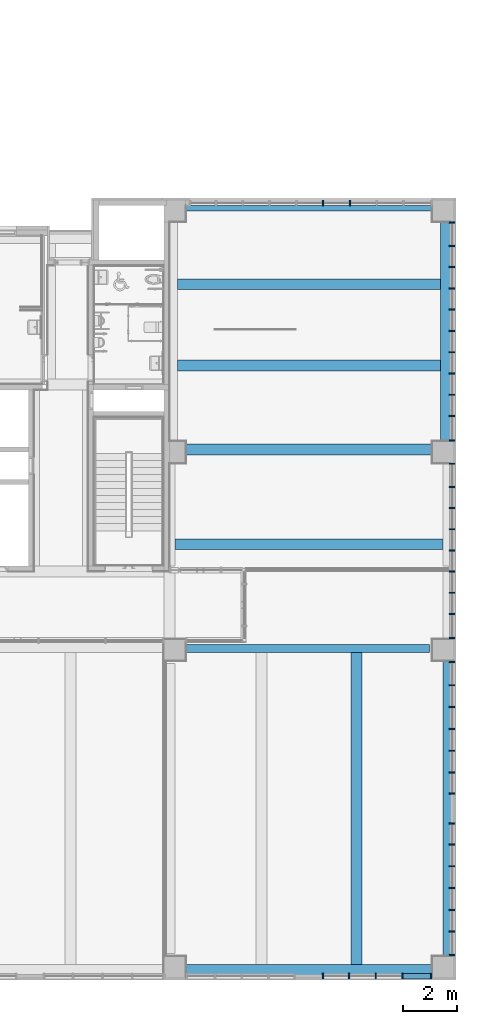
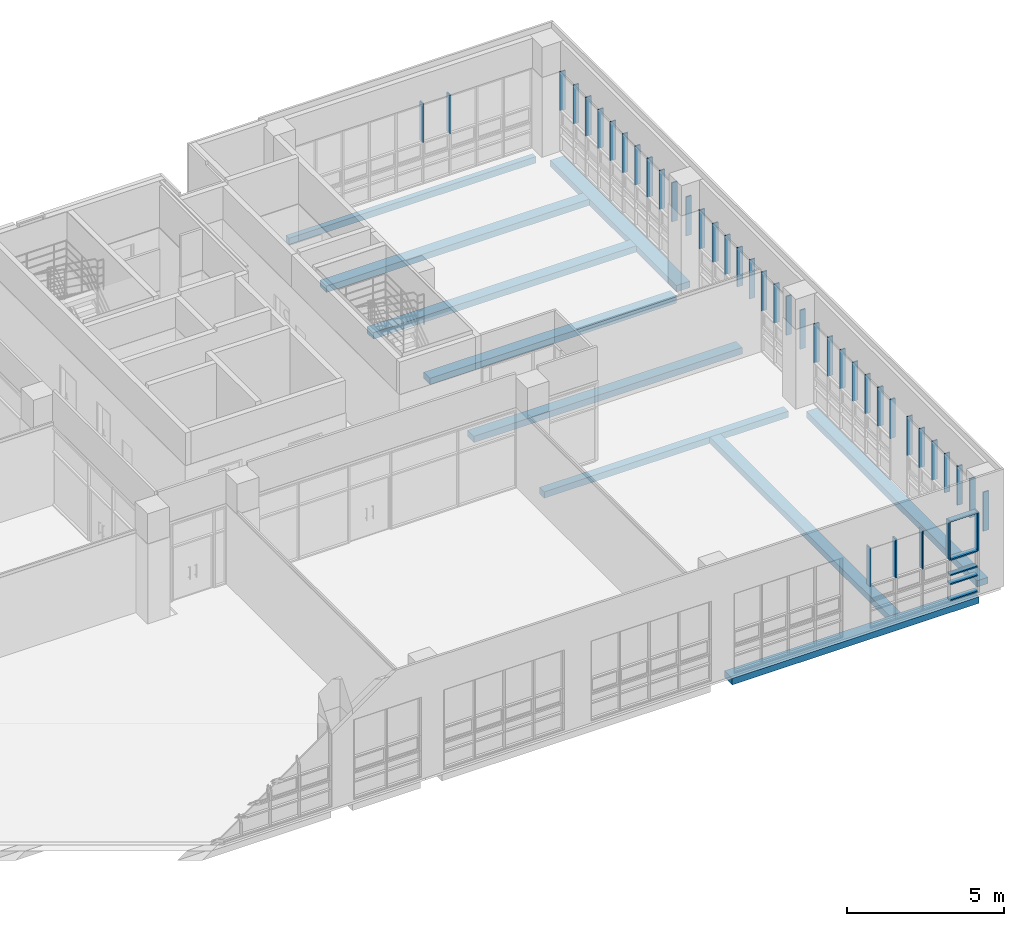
# One storey, part 9 of 74: 46 members, 10 beams, 6 elements without a shape of their own.
"""IFC2X3 building model written with IfcOpenShell, lengths in millimetres."""

import ifcopenshell
import ifcopenshell.guid

model = None  # the IFC model being written
_history = None  # IfcOwnerHistory: only IFC2X3 demands one
_inside = {}  # id of a spatial element -> (the spatial element, [elements in it])
_under = {}  # id of a project, library or spatial element -> (it, [spatial elements below it])
_declared = {}  # id of a project -> (the project, [libraries it declares])
_typed = {}  # id of a type object -> (the type object, [elements of that type])
_made_of = {}  # id of a material, layer set ... -> (it, [elements and type objects made of it])


def new_model(schema):
    """Start an empty IFC model of exactly this schema.

    Asked for "IFC4X3", IfcOpenShell would pick the latest addendum, in which some entities
    have other attributes; the version numbers below select the first issue.
    IFC2X3 requires an IfcOwnerHistory on every rooted entity: one is made here for all.
    """
    global model, _history
    if schema == "IFC4X3":
        model = ifcopenshell.file(schema_version=(4, 3, 0, 0))
    else:
        model = ifcopenshell.file(schema=schema)
    _inside.clear()
    _under.clear()
    _declared.clear()
    _typed.clear()
    _made_of.clear()
    _history = None
    if model.schema == "IFC2X3":
        org = make("IfcOrganization", Name="unknown")
        user = make(
            "IfcPersonAndOrganization",
            ThePerson=make("IfcPerson", FamilyName="unknown"),
            TheOrganization=org,
        )
        app = make(
            "IfcApplication",
            ApplicationDeveloper=org,
            Version="unknown",
            ApplicationFullName="unknown",
            ApplicationIdentifier="unknown",
        )
        _history = make(
            "IfcOwnerHistory",
            OwningUser=user,
            OwningApplication=app,
            ChangeAction="ADDED",
            CreationDate=0,
        )
    return model


def make(cls, **values):
    """One entity of the class cls with the attributes given. An attribute that is None is left unset."""
    return model.create_entity(
        cls, **{name: value for name, value in values.items() if value is not None}
    )


def entity(cls, *values):
    """Any entity or typed value of the class cls, its attributes in the order of the schema. None: left unset."""
    e = model.create_entity(cls)
    for i, value in enumerate(values):
        if value is not None:
            e[i] = value
    return e


def rooted(cls, **values):
    """An entity with a GlobalId (a new one), such as an element, a storey or a relation."""
    return make(cls, GlobalId=ifcopenshell.guid.new(), OwnerHistory=_history, **values)


def si_unit(unit_type, name, prefix=None):
    """IfcSIUnit, for example si_unit("LENGTHUNIT", "METRE", prefix="MILLI")."""
    return make("IfcSIUnit", UnitType=unit_type, Prefix=prefix, Name=name)


def converted_unit(unit_type, name, factor, base, dimensions=None, offset=None):
    """IfcConversionBasedUnit, such as the inch: factor (a typed value) times the base unit."""
    return make(
        "IfcConversionBasedUnit"
        if offset is None
        else "IfcConversionBasedUnitWithOffset",
        ConversionOffset=offset,
        Dimensions=None
        if dimensions is None
        else entity("IfcDimensionalExponents", *dimensions),
        UnitType=unit_type,
        Name=name,
        ConversionFactor=make(
            "IfcMeasureWithUnit", ValueComponent=factor, UnitComponent=base
        ),
    )


def derived_unit(unit_type, elements):
    """IfcDerivedUnit: a product of units, each with its exponent."""
    return make(
        "IfcDerivedUnit",
        Elements=[
            make("IfcDerivedUnitElement", Unit=unit, Exponent=power)
            for unit, power in elements
        ],
        UnitType=unit_type,
    )


def assignment(units):
    """IfcUnitAssignment: the units of a project."""
    return None if units is None else make("IfcUnitAssignment", Units=units)


def point(xyz):
    """IfcCartesianPoint."""
    return None if xyz is None else make("IfcCartesianPoint", Coordinates=xyz)


def direction(xyz):
    """IfcDirection."""
    return None if xyz is None else make("IfcDirection", DirectionRatios=xyz)


def frame(location, z_axis=None, x_axis=None):
    """IfcAxis2Placement3D, a coordinate frame: its origin and axes. An axis left out is left unset."""
    return make(
        "IfcAxis2Placement3D",
        Location=point(location),
        Axis=direction(z_axis),
        RefDirection=direction(x_axis),
    )


def frame_2d(location, x_axis=None):
    """IfcAxis2Placement2D, a coordinate frame in the plane: its origin and x axis."""
    return make(
        "IfcAxis2Placement2D", Location=point(location), RefDirection=direction(x_axis)
    )


def origin():
    """The frame at (0, 0, 0) with its axes left unset."""
    return frame((0.0, 0.0, 0.0))


def origin_2d_with_axis():
    """The frame at (0, 0) in the plane with the x axis (1, 0) written out."""
    return frame_2d((0.0, 0.0), x_axis=(1.0, 0.0))


def place(relative_to, where):
    """IfcLocalPlacement: puts the frame where relative to a parent placement (None: the world)."""
    return make(
        "IfcLocalPlacement", PlacementRelTo=relative_to, RelativePlacement=where
    )


def context(
    kind, dimensions, precision=None, world=None, true_north=None, identifier=None
):
    """IfcGeometricRepresentationContext, for example the 3D "Model" context."""
    return make(
        "IfcGeometricRepresentationContext",
        ContextIdentifier=identifier,
        ContextType=kind,
        CoordinateSpaceDimension=dimensions,
        Precision=precision,
        WorldCoordinateSystem=world,
        TrueNorth=true_north,
    )


def subcontext(parent, identifier, kind, view, scale=None):
    """IfcGeometricRepresentationSubContext, for example "Body" below "Model"."""
    return make(
        "IfcGeometricRepresentationSubContext",
        ContextIdentifier=identifier,
        ContextType=kind,
        ParentContext=parent,
        TargetScale=scale,
        TargetView=view,
    )


def project(units=None, contexts=None):
    """IfcProject with its units and contexts."""
    return rooted(
        "IfcProject",
        Name="project",
        RepresentationContexts=contexts,
        UnitsInContext=assignment(units),
    )


def spatial(cls, under=None, at=None, **own):
    """A site, building, storey or space (cls), placed at a placement, below another one or the project."""
    s = rooted(cls, ObjectPlacement=at, **own)
    if under is not None:
        _under.setdefault(under.id(), (under, []))[1].append(s)
    return s


def profile(cls, at=None, kind="AREA", **sizes):
    """A parametric profile (cls). Its sizes go by their IFC names, for example OverallWidth=200.0."""
    return make(cls, ProfileType=kind, Position=at, **sizes)


def rectangle(**sizes):
    """IfcRectangleProfileDef."""
    return profile("IfcRectangleProfileDef", **sizes)


def extrude(swept, where, along, depth):
    """IfcExtrudedAreaSolid: the profile swept, set in the frame where, extruded along a direction by depth."""
    return make(
        "IfcExtrudedAreaSolid",
        SweptArea=swept,
        Position=where,
        ExtrudedDirection=direction(along),
        Depth=depth,
    )


def shape(context_of_items, identifier, shape_type, items):
    """IfcShapeRepresentation: the items that make up one representation, for example the "Body"."""
    return make(
        "IfcShapeRepresentation",
        ContextOfItems=context_of_items,
        RepresentationIdentifier=identifier,
        RepresentationType=shape_type,
        Items=items,
    )


def source(mapping_origin, context_of_items, identifier, shape_type, items):
    """IfcRepresentationMap: a shape defined once, which mapped items show again and again."""
    return make(
        "IfcRepresentationMap",
        MappingOrigin=mapping_origin,
        MappedRepresentation=shape(context_of_items, identifier, shape_type, items),
    )


def transform(
    local_origin,
    x_axis=None,
    y_axis=None,
    z_axis=None,
    scale=None,
    scale2=None,
    scale3=None,
    uniform=True,
):
    """IfcCartesianTransformationOperator3D, or its non-uniform kind. x_axis, y_axis, z_axis: its Axis1, 2, 3."""
    if uniform:
        return make(
            "IfcCartesianTransformationOperator3D",
            Axis1=direction(x_axis),
            Axis2=direction(y_axis),
            LocalOrigin=point(local_origin),
            Scale=scale,
            Axis3=direction(z_axis),
        )
    return make(
        "IfcCartesianTransformationOperator3DnonUniform",
        Axis1=direction(x_axis),
        Axis2=direction(y_axis),
        LocalOrigin=point(local_origin),
        Scale=scale,
        Axis3=direction(z_axis),
        Scale2=scale2,
        Scale3=scale3,
    )


def mapped(mapping_source, mapping_target):
    """IfcMappedItem: shows the shape of a source again, moved by a transform."""
    return make(
        "IfcMappedItem", MappingSource=mapping_source, MappingTarget=mapping_target
    )


def material(Name=None, Category=None):
    """IfcMaterial."""
    return make("IfcMaterial", Name=Name, Category=Category)


def made_of(thing, what):
    """Note that an element or type object is made of a material, layer set ...; save() writes the relation."""
    if what is not None:
        _made_of.setdefault(what.id(), (what, []))[1].append(thing)
    return thing


def type_object(cls, material=None, **own):
    """A type object (cls), such as IfcWallType, which elements share."""
    return made_of(rooted(cls, **own), material)


def type_shapes(of_type, sources):
    """Give a type object the sources (RepresentationMaps) that its elements show as mapped items."""
    of_type.RepresentationMaps = sources


def element(
    cls,
    number,
    at=None,
    inside=None,
    cuts=None,
    type_object=None,
    material=None,
    context=None,
    identifier="Body",
    shape_type=None,
    held_by="IfcProductDefinitionShape",
    body=None,
    shapes=None,
    **own,
):
    """One element of the class cls, such as IfcWall. Its Tag is "e" and its number.

    at: its placement. inside: the storey or other place that contains it. cuts: it is an
    opening in that element (IfcRelVoidsElement). A single representation is given by context,
    identifier, shape_type and body (its items); several are given by shapes. held_by: the class
    of the entity that holds the representations. save() writes the other relations.
    """
    e = rooted(cls, Tag="e%d" % number, ObjectPlacement=at, **own)
    if body is not None:
        shapes = [shape(context, identifier, shape_type, body)]
    if shapes is not None:
        e.Representation = make(held_by, Representations=shapes)
    if inside is not None:
        _inside.setdefault(inside.id(), (inside, []))[1].append(e)
    if cuts is not None:
        rooted(
            "IfcRelVoidsElement", RelatingBuildingElement=cuts, RelatedOpeningElement=e
        )
    if type_object is not None:
        _typed.setdefault(type_object.id(), (type_object, []))[1].append(e)
    return made_of(e, material)


def aggregate(whole, parts):
    """IfcRelAggregates: a whole, such as a stair, and the parts it consists of."""
    return rooted("IfcRelAggregates", RelatingObject=whole, RelatedObjects=parts)


def save(model, path):
    """Write the relations noted so far, then the file.

    IfcRelAggregates (storeys below a building ...), IfcRelContainedInSpatialStructure (elements
    in a storey), IfcRelDefinesByType, IfcRelAssociatesMaterial and IfcRelDeclares: one each for
    every whole, place, type object, material and project.
    """
    for whole, parts in _under.values():
        aggregate(whole, parts)
    for where, things in _inside.values():
        rooted(
            "IfcRelContainedInSpatialStructure",
            RelatedElements=things,
            RelatingStructure=where,
        )
    for kind, things in _typed.values():
        rooted("IfcRelDefinesByType", RelatedObjects=things, RelatingType=kind)
    for what, things in _made_of.values():
        rooted("IfcRelAssociatesMaterial", RelatedObjects=things, RelatingMaterial=what)
    for by, libraries in _declared.values():
        rooted("IfcRelDeclares", RelatingContext=by, RelatedDefinitions=libraries)
    model.write(path)


model = new_model("IFC2X3")

# Units and contexts
model_context = context("Model", 3, precision=0.01, world=origin(), true_north=direction((6.123031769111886e-17, 1.0)))
body_context = subcontext(model_context, "Body", "Model", "MODEL_VIEW")
ifc_project = project(units=[si_unit("LENGTHUNIT", "METRE", prefix="MILLI"), si_unit("AREAUNIT", "SQUARE_METRE"), si_unit("VOLUMEUNIT", "CUBIC_METRE"), converted_unit("PLANEANGLEUNIT", "DEGREE", entity("IfcRatioMeasure", 0.017453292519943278), si_unit("PLANEANGLEUNIT", "RADIAN"), dimensions=[0, 0, 0, 0, 0, 0, 0]), si_unit("MASSUNIT", "GRAM", prefix="KILO"), derived_unit("MASSDENSITYUNIT", [(si_unit("MASSUNIT", "GRAM", prefix="KILO"), 1), (si_unit("LENGTHUNIT", "METRE"), -3)]), derived_unit("MOMENTOFINERTIAUNIT", [(si_unit("LENGTHUNIT", "METRE"), 4)]), si_unit("TIMEUNIT", "SECOND"), si_unit("FREQUENCYUNIT", "HERTZ"), si_unit("THERMODYNAMICTEMPERATUREUNIT", "DEGREE_CELSIUS"), derived_unit("THERMALTRANSMITTANCEUNIT", [(si_unit("MASSUNIT", "GRAM", prefix="KILO"), 1), (si_unit("THERMODYNAMICTEMPERATUREUNIT", "KELVIN"), -1), (si_unit("TIMEUNIT", "SECOND"), -3)]), derived_unit("VOLUMETRICFLOWRATEUNIT", [(si_unit("LENGTHUNIT", "METRE"), 3), (si_unit("TIMEUNIT", "SECOND"), -1)]), derived_unit("MASSFLOWRATEUNIT", [(si_unit("MASSUNIT", "GRAM", prefix="KILO"), 1), (si_unit("TIMEUNIT", "SECOND"), -1)]), derived_unit("ROTATIONALFREQUENCYUNIT", [(si_unit("TIMEUNIT", "SECOND"), -1)]), si_unit("ELECTRICCURRENTUNIT", "AMPERE"), si_unit("ELECTRICVOLTAGEUNIT", "VOLT"), si_unit("POWERUNIT", "WATT"), si_unit("FORCEUNIT", "NEWTON", prefix="KILO"), si_unit("ILLUMINANCEUNIT", "LUX"), si_unit("LUMINOUSFLUXUNIT", "LUMEN"), si_unit("LUMINOUSINTENSITYUNIT", "CANDELA"), derived_unit("USERDEFINED", [(si_unit("MASSUNIT", "GRAM", prefix="KILO"), -1), (si_unit("LENGTHUNIT", "METRE"), -2), (si_unit("TIMEUNIT", "SECOND"), 3), (si_unit("LUMINOUSFLUXUNIT", "LUMEN"), 1)]), derived_unit("SOUNDPOWERUNIT", [(si_unit("MASSUNIT", "GRAM", prefix="KILO"), 1), (si_unit("LENGTHUNIT", "METRE"), 2), (si_unit("TIMEUNIT", "SECOND"), -3)]), derived_unit("SOUNDPRESSUREUNIT", [(si_unit("MASSUNIT", "GRAM", prefix="KILO"), 1), (si_unit("LENGTHUNIT", "METRE"), -1), (si_unit("TIMEUNIT", "SECOND"), -2)]), derived_unit("LINEARVELOCITYUNIT", [(si_unit("LENGTHUNIT", "METRE"), 1), (si_unit("TIMEUNIT", "SECOND"), -1)]), si_unit("PRESSUREUNIT", "PASCAL"), derived_unit("USERDEFINED", [(si_unit("LENGTHUNIT", "METRE"), -2), (si_unit("MASSUNIT", "GRAM", prefix="KILO"), 1), (si_unit("TIMEUNIT", "SECOND"), -2)]), derived_unit("LINEARFORCEUNIT", [(si_unit("MASSUNIT", "GRAM", prefix="KILO"), 1), (si_unit("LENGTHUNIT", "METRE"), 1), (si_unit("TIMEUNIT", "SECOND"), -2), (si_unit("LENGTHUNIT", "METRE"), -1)]), derived_unit("PLANARFORCEUNIT", [(si_unit("MASSUNIT", "GRAM", prefix="KILO"), 1), (si_unit("LENGTHUNIT", "METRE"), 1), (si_unit("TIMEUNIT", "SECOND"), -2), (si_unit("LENGTHUNIT", "METRE"), -2)])], contexts=[model_context])

# Site, building, storey
site_placement = place(None, frame((-14167.972527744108, -657.2125860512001, 0.0)))
site = spatial("IfcSite", under=ifc_project, at=site_placement, Name="Default", CompositionType="ELEMENT")
building_placement = place(site_placement, origin())
building = spatial("IfcBuilding", under=site, at=building_placement, Name="Sample Building", CompositionType="ELEMENT")
storey_placement = place(building_placement, frame((0.0, 0.0, 4800.0)))
storey = spatial("IfcBuildingStorey", under=building, at=storey_placement, Name="지상 2층", CompositionType="ELEMENT", Elevation=4800.000000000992)

# Curtain wall, member
curtain_wall_type = type_object("IfcCurtainWallType", Name="커튼월:CW112-스테인리스 스틸 커튼월", PredefinedType="NOTDEFINED")
curtain_wall_1_placement = place(storey_placement, frame((0.0, 0.0, -4800.0)))
curtain_wall_1 = element("IfcCurtainWall", 1, at=curtain_wall_1_placement, inside=storey, type_object=curtain_wall_type, Name="커튼월:CW112-스테인리스 스틸 커튼월", ObjectType="커튼월:CW112-스테인리스 스틸 커튼월")
ifc_material_1 = material(Name="<Unnamed>")
member_type_1 = type_object("IfcMemberType", Name="직사각형 멀리언:CW200-직사각형 멀리언 50x200mm", PredefinedType="MULLION", material=ifc_material_1)
shared_shape_1 = source(origin(), body_context, "Body", "SweptSolid", [
    extrude(rectangle(XDim=200.0, YDim=50.0, at=origin_2d_with_axis()), frame((-25.0, 0.0, -1520.0), z_axis=(0.0, 0.0, 1.0), x_axis=(0.0, -1.0, 0.0)), (0.0, 0.0, 1.0), 1520.0000000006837),
])
type_shapes(member_type_1, [shared_shape_1])
member_1_placement = place(curtain_wall_1_placement, frame((46610.82230636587, 619.7122951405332, 8000.0), z_axis=(0.0, 0.0, 1.0), x_axis=(-1.0, 0.0, 0.0)))
member_1 = element("IfcMember", 2, at=member_1_placement, type_object=member_type_1, material=ifc_material_1, Name="직사각형 멀리언:CW200-직사각형 멀리언 50x200mm", ObjectType="직사각형 멀리언:CW200-직사각형 멀리언 50x200mm", context=body_context, shape_type="MappedRepresentation", body=[
    mapped(shared_shape_1, transform((0.0, 0.0, 0.0), scale=1.0)),
])

curtain_wall_2_placement = place(storey_placement, frame((0.0, 0.0, -4800.0)))
curtain_wall_2 = element("IfcCurtainWall", 3, at=curtain_wall_2_placement, inside=storey, type_object=curtain_wall_type, Name="커튼월:CW112-스테인리스 스틸 커튼월", ObjectType="커튼월:CW112-스테인리스 스틸 커튼월")
member_2_placement = place(curtain_wall_2_placement, frame((51405.46382893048, 1375.212307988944, 8000.0), z_axis=(0.0, 0.0, 1.0), x_axis=(0.0, -1.0, 0.0)))
member_2 = element("IfcMember", 4, at=member_2_placement, type_object=member_type_1, material=ifc_material_1, Name="직사각형 멀리언:CW200-직사각형 멀리언 50x200mm", ObjectType="직사각형 멀리언:CW200-직사각형 멀리언 50x200mm", context=body_context, shape_type="MappedRepresentation", body=[
    mapped(shared_shape_1, transform((0.0, 0.0, 0.0), scale=1.0)),
])

curtain_wall_3_placement = place(storey_placement, frame((0.0, 0.0, -4800.0)))
curtain_wall_3 = element("IfcCurtainWall", 5, at=curtain_wall_3_placement, inside=storey, type_object=curtain_wall_type, Name="커튼월:CW112-스테인리스 스틸 커튼월", ObjectType="커튼월:CW112-스테인리스 스틸 커튼월")
member_3_placement = place(curtain_wall_3_placement, frame((51405.46382893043, 7332.212586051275, 8000.0), z_axis=(0.0, 0.0, 1.0), x_axis=(0.0, -1.0, 0.0)))
member_3 = element("IfcMember", 6, at=member_3_placement, type_object=member_type_1, material=ifc_material_1, Name="직사각형 멀리언:CW200-직사각형 멀리언 50x200mm", ObjectType="직사각형 멀리언:CW200-직사각형 멀리언 50x200mm", context=body_context, shape_type="MappedRepresentation", body=[
    mapped(shared_shape_1, transform((0.0, 0.0, 0.0), scale=1.0)),
])

curtain_wall_4_placement = place(storey_placement, frame((0.0, 0.0, -4800.0)))
curtain_wall_4 = element("IfcCurtainWall", 7, at=curtain_wall_4_placement, inside=storey, type_object=curtain_wall_type, Name="커튼월:CW112-스테인리스 스틸 커튼월", ObjectType="커튼월:CW112-스테인리스 스틸 커튼월")
member_4_placement = place(curtain_wall_4_placement, frame((51405.46382893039, 13075.212729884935, 8000.0), z_axis=(0.0, 0.0, 1.0), x_axis=(0.0, -1.0, 0.0)))
member_4 = element("IfcMember", 8, at=member_4_placement, type_object=member_type_1, material=ifc_material_1, Name="직사각형 멀리언:CW200-직사각형 멀리언 50x200mm", ObjectType="직사각형 멀리언:CW200-직사각형 멀리언 50x200mm", context=body_context, shape_type="MappedRepresentation", body=[
    mapped(shared_shape_1, transform((0.0, 0.0, 0.0), scale=1.0)),
])

curtain_wall_5_placement = place(storey_placement, frame((0.0, 0.0, -4800.0)))
curtain_wall_5 = element("IfcCurtainWall", 9, at=curtain_wall_5_placement, inside=storey, type_object=curtain_wall_type, Name="커튼월:CW112-스테인리스 스틸 커튼월", ObjectType="커튼월:CW112-스테인리스 스틸 커튼월")
member_5_placement = place(curtain_wall_5_placement, frame((51405.463828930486, 20357.2123079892, 8000.0), z_axis=(0.0, 0.0, 1.0), x_axis=(0.0, -1.0, 0.0)))
member_5 = element("IfcMember", 10, at=member_5_placement, type_object=member_type_1, material=ifc_material_1, Name="직사각형 멀리언:CW200-직사각형 멀리언 50x200mm", ObjectType="직사각형 멀리언:CW200-직사각형 멀리언 50x200mm", context=body_context, shape_type="MappedRepresentation", body=[
    mapped(shared_shape_1, transform((0.0, 0.0, 0.0), scale=1.0)),
])

# Member
member_type_2 = type_object("IfcMemberType", Name="직사각형 멀리언:CW200-직사각형 멀리언 50x200mm", PredefinedType="MULLION", material=ifc_material_1)
shared_shape_2 = source(origin(), body_context, "Body", "SweptSolid", [
    extrude(rectangle(XDim=200.0, YDim=50.0, at=origin_2d_with_axis()), frame((-25.0, 0.0, -1520.0), z_axis=(0.0, 0.0, 1.0), x_axis=(0.0, -1.0, 0.0)), (0.0, 0.0, 1.0), 1520.0000000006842),
])
type_shapes(member_type_2, [shared_shape_2])
member_6_placement = place(curtain_wall_1_placement, frame((50649.98118746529, 619.71229514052, 6480.0), z_axis=(0.0, 0.0, -1.0), x_axis=(1.0, 0.0, 0.0)))
member_6 = element("IfcMember", 11, at=member_6_placement, type_object=member_type_2, material=ifc_material_1, Name="직사각형 멀리언:CW200-직사각형 멀리언 50x200mm", ObjectType="직사각형 멀리언:CW200-직사각형 멀리언 50x200mm", context=body_context, shape_type="MappedRepresentation", body=[
    mapped(shared_shape_2, transform((0.0, 0.0, 0.0), scale=1.0)),
])

member_7_placement = place(curtain_wall_2_placement, frame((51405.463828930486, 6282.212586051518, 6480.0), z_axis=(0.0, 0.0, -1.0), x_axis=(0.0, 1.0, 0.0)))
member_7 = element("IfcMember", 12, at=member_7_placement, type_object=member_type_2, material=ifc_material_1, Name="직사각형 멀리언:CW200-직사각형 멀리언 50x200mm", ObjectType="직사각형 멀리언:CW200-직사각형 멀리언 50x200mm", context=body_context, shape_type="MappedRepresentation", body=[
    mapped(shared_shape_2, transform((0.0, 0.0, 0.0), scale=1.0)),
])

member_8_placement = place(curtain_wall_3_placement, frame((51405.463828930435, 12239.212729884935, 6480.0), z_axis=(0.0, 0.0, -1.0), x_axis=(0.0, 1.0, 0.0)))
member_8 = element("IfcMember", 13, at=member_8_placement, type_object=member_type_2, material=ifc_material_1, Name="직사각형 멀리언:CW200-직사각형 멀리언 50x200mm", ObjectType="직사각형 멀리언:CW200-직사각형 멀리언 50x200mm", context=body_context, shape_type="MappedRepresentation", body=[
    mapped(shared_shape_2, transform((0.0, 0.0, 0.0), scale=1.0)),
])

member_9_placement = place(curtain_wall_4_placement, frame((51405.463828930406, 19557.212307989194, 6480.0), z_axis=(0.0, 0.0, -1.0), x_axis=(0.0, 1.0, 0.0)))
member_9 = element("IfcMember", 14, at=member_9_placement, type_object=member_type_2, material=ifc_material_1, Name="직사각형 멀리언:CW200-직사각형 멀리언 50x200mm", ObjectType="직사각형 멀리언:CW200-직사각형 멀리언 50x200mm", context=body_context, shape_type="MappedRepresentation", body=[
    mapped(shared_shape_2, transform((0.0, 0.0, 0.0), scale=1.0)),
])

member_10_placement = place(curtain_wall_5_placement, frame((51405.46382893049, 28457.212704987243, 6480.0), z_axis=(0.0, 0.0, -1.0), x_axis=(0.0, 1.0, 0.0)))
member_10 = element("IfcMember", 15, at=member_10_placement, type_object=member_type_2, material=ifc_material_1, Name="직사각형 멀리언:CW200-직사각형 멀리언 50x200mm", ObjectType="직사각형 멀리언:CW200-직사각형 멀리언 50x200mm", context=body_context, shape_type="MappedRepresentation", body=[
    mapped(shared_shape_2, transform((0.0, 0.0, 0.0), scale=1.0)),
])

member_type_3 = type_object("IfcMemberType", Name="직사각형 멀리언:CW200-직사각형 멀리언 50x200mm", PredefinedType="MULLION", material=ifc_material_1)
shared_shape_3 = source(origin(), body_context, "Body", "SweptSolid", [
    extrude(rectangle(XDim=200.0, YDim=50.0, at=origin_2d_with_axis()), frame((0.0, 0.0, -1520.0), z_axis=(0.0, 0.0, 1.0), x_axis=(0.0, -1.0, 0.0)), (0.0, 0.0, 1.0), 1520.0000000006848),
])
type_shapes(member_type_3, [shared_shape_3])
member_11_placement = place(curtain_wall_1_placement, frame((47598.32230636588, 619.7122951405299, 6480.0), z_axis=(0.0, 0.0, -1.0), x_axis=(1.0, 0.0, 0.0)))
member_11 = element("IfcMember", 16, at=member_11_placement, type_object=member_type_3, material=ifc_material_1, Name="직사각형 멀리언:CW200-직사각형 멀리언 50x200mm", ObjectType="직사각형 멀리언:CW200-직사각형 멀리언 50x200mm", context=body_context, shape_type="MappedRepresentation", body=[
    mapped(shared_shape_3, transform((0.0, 0.0, 0.0), scale=1.0)),
])

member_12_placement = place(curtain_wall_1_placement, frame((48585.82230636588, 619.7122951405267, 6480.0), z_axis=(0.0, 0.0, -1.0), x_axis=(1.0, 0.0, 0.0)))
member_12 = element("IfcMember", 17, at=member_12_placement, type_object=member_type_3, material=ifc_material_1, Name="직사각형 멀리언:CW200-직사각형 멀리언 50x200mm", ObjectType="직사각형 멀리언:CW200-직사각형 멀리언 50x200mm", context=body_context, shape_type="MappedRepresentation", body=[
    mapped(shared_shape_3, transform((0.0, 0.0, 0.0), scale=1.0)),
])

member_13_placement = place(curtain_wall_1_placement, frame((49573.32230636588, 619.7122951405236, 6480.0), z_axis=(0.0, 0.0, -1.0), x_axis=(1.0, 0.0, 0.0)))
member_13 = element("IfcMember", 18, at=member_13_placement, type_object=member_type_3, material=ifc_material_1, Name="직사각형 멀리언:CW200-직사각형 멀리언 50x200mm", ObjectType="직사각형 멀리언:CW200-직사각형 멀리언 50x200mm", context=body_context, shape_type="MappedRepresentation", body=[
    mapped(shared_shape_3, transform((0.0, 0.0, 0.0), scale=1.0)),
])

member_14_placement = place(curtain_wall_2_placement, frame((51405.46382893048, 2261.3792527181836, 6480.0), z_axis=(0.0, 0.0, -1.0), x_axis=(0.0, 1.0, 0.0)))
member_14 = element("IfcMember", 19, at=member_14_placement, type_object=member_type_3, material=ifc_material_1, Name="직사각형 멀리언:CW200-직사각형 멀리언 50x200mm", ObjectType="직사각형 멀리언:CW200-직사각형 멀리언 50x200mm", context=body_context, shape_type="MappedRepresentation", body=[
    mapped(shared_shape_3, transform((0.0, 0.0, 0.0), scale=1.0)),
])

member_15_placement = place(curtain_wall_2_placement, frame((51405.46382893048, 3065.5459193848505, 6480.0), z_axis=(0.0, 0.0, -1.0), x_axis=(0.0, 1.0, 0.0)))
member_15 = element("IfcMember", 20, at=member_15_placement, type_object=member_type_3, material=ifc_material_1, Name="직사각형 멀리언:CW200-직사각형 멀리언 50x200mm", ObjectType="직사각형 멀리언:CW200-직사각형 멀리언 50x200mm", context=body_context, shape_type="MappedRepresentation", body=[
    mapped(shared_shape_3, transform((0.0, 0.0, 0.0), scale=1.0)),
])

member_16_placement = place(curtain_wall_2_placement, frame((51405.463828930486, 3869.7125860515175, 6480.0), z_axis=(0.0, 0.0, -1.0), x_axis=(0.0, 1.0, 0.0)))
member_16 = element("IfcMember", 21, at=member_16_placement, type_object=member_type_3, material=ifc_material_1, Name="직사각형 멀리언:CW200-직사각형 멀리언 50x200mm", ObjectType="직사각형 멀리언:CW200-직사각형 멀리언 50x200mm", context=body_context, shape_type="MappedRepresentation", body=[
    mapped(shared_shape_3, transform((0.0, 0.0, 0.0), scale=1.0)),
])

member_17_placement = place(curtain_wall_2_placement, frame((51405.463828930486, 4673.879252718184, 6480.0), z_axis=(0.0, 0.0, -1.0), x_axis=(0.0, 1.0, 0.0)))
member_17 = element("IfcMember", 22, at=member_17_placement, type_object=member_type_3, material=ifc_material_1, Name="직사각형 멀리언:CW200-직사각형 멀리언 50x200mm", ObjectType="직사각형 멀리언:CW200-직사각형 멀리언 50x200mm", context=body_context, shape_type="MappedRepresentation", body=[
    mapped(shared_shape_3, transform((0.0, 0.0, 0.0), scale=1.0)),
])

member_18_placement = place(curtain_wall_2_placement, frame((51405.463828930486, 5478.04591938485, 6480.0), z_axis=(0.0, 0.0, -1.0), x_axis=(0.0, 1.0, 0.0)))
member_18 = element("IfcMember", 23, at=member_18_placement, type_object=member_type_3, material=ifc_material_1, Name="직사각형 멀리언:CW200-직사각형 멀리언 50x200mm", ObjectType="직사각형 멀리언:CW200-직사각형 멀리언 50x200mm", context=body_context, shape_type="MappedRepresentation", body=[
    mapped(shared_shape_3, transform((0.0, 0.0, 0.0), scale=1.0)),
])

aggregate(curtain_wall_2, [member_2, member_7, member_14, member_15, member_16, member_17, member_18])

member_19_placement = place(curtain_wall_3_placement, frame((51405.46382893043, 8136.37925271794, 6480.0), z_axis=(0.0, 0.0, -1.0), x_axis=(0.0, 1.0, 0.0)))
member_19 = element("IfcMember", 24, at=member_19_placement, type_object=member_type_3, material=ifc_material_1, Name="직사각형 멀리언:CW200-직사각형 멀리언 50x200mm", ObjectType="직사각형 멀리언:CW200-직사각형 멀리언 50x200mm", context=body_context, shape_type="MappedRepresentation", body=[
    mapped(shared_shape_3, transform((0.0, 0.0, 0.0), scale=1.0)),
])

member_20_placement = place(curtain_wall_3_placement, frame((51405.46382893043, 8940.545919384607, 6480.0), z_axis=(0.0, 0.0, -1.0), x_axis=(0.0, 1.0, 0.0)))
member_20 = element("IfcMember", 25, at=member_20_placement, type_object=member_type_3, material=ifc_material_1, Name="직사각형 멀리언:CW200-직사각형 멀리언 50x200mm", ObjectType="직사각형 멀리언:CW200-직사각형 멀리언 50x200mm", context=body_context, shape_type="MappedRepresentation", body=[
    mapped(shared_shape_3, transform((0.0, 0.0, 0.0), scale=1.0)),
])

member_21_placement = place(curtain_wall_3_placement, frame((51405.463828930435, 9744.712586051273, 6480.0), z_axis=(0.0, 0.0, -1.0), x_axis=(0.0, 1.0, 0.0)))
member_21 = element("IfcMember", 26, at=member_21_placement, type_object=member_type_3, material=ifc_material_1, Name="직사각형 멀리언:CW200-직사각형 멀리언 50x200mm", ObjectType="직사각형 멀리언:CW200-직사각형 멀리언 50x200mm", context=body_context, shape_type="MappedRepresentation", body=[
    mapped(shared_shape_3, transform((0.0, 0.0, 0.0), scale=1.0)),
])

member_22_placement = place(curtain_wall_3_placement, frame((51405.463828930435, 10548.87925271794, 6480.0), z_axis=(0.0, 0.0, -1.0), x_axis=(0.0, 1.0, 0.0)))
member_22 = element("IfcMember", 27, at=member_22_placement, type_object=member_type_3, material=ifc_material_1, Name="직사각형 멀리언:CW200-직사각형 멀리언 50x200mm", ObjectType="직사각형 멀리언:CW200-직사각형 멀리언 50x200mm", context=body_context, shape_type="MappedRepresentation", body=[
    mapped(shared_shape_3, transform((0.0, 0.0, 0.0), scale=1.0)),
])

member_23_placement = place(curtain_wall_3_placement, frame((51405.463828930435, 11353.045919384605, 6480.0), z_axis=(0.0, 0.0, -1.0), x_axis=(0.0, 1.0, 0.0)))
member_23 = element("IfcMember", 28, at=member_23_placement, type_object=member_type_3, material=ifc_material_1, Name="직사각형 멀리언:CW200-직사각형 멀리언 50x200mm", ObjectType="직사각형 멀리언:CW200-직사각형 멀리언 50x200mm", context=body_context, shape_type="MappedRepresentation", body=[
    mapped(shared_shape_3, transform((0.0, 0.0, 0.0), scale=1.0)),
])

aggregate(curtain_wall_3, [member_3, member_8, member_19, member_20, member_21, member_22, member_23])

member_24_placement = place(curtain_wall_4_placement, frame((51405.46382893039, 13988.462275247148, 6480.0), z_axis=(0.0, 0.0, -1.0), x_axis=(0.0, 1.0, 0.0)))
member_24 = element("IfcMember", 29, at=member_24_placement, type_object=member_type_3, material=ifc_material_1, Name="직사각형 멀리언:CW200-직사각형 멀리언 50x200mm", ObjectType="직사각형 멀리언:CW200-직사각형 멀리언 50x200mm", context=body_context, shape_type="MappedRepresentation", body=[
    mapped(shared_shape_3, transform((0.0, 0.0, 0.0), scale=1.0)),
])

member_25_placement = place(curtain_wall_4_placement, frame((51405.46382893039, 14769.712275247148, 6480.0), z_axis=(0.0, 0.0, -1.0), x_axis=(0.0, 1.0, 0.0)))
member_25 = element("IfcMember", 30, at=member_25_placement, type_object=member_type_3, material=ifc_material_1, Name="직사각형 멀리언:CW200-직사각형 멀리언 50x200mm", ObjectType="직사각형 멀리언:CW200-직사각형 멀리언 50x200mm", context=body_context, shape_type="MappedRepresentation", body=[
    mapped(shared_shape_3, transform((0.0, 0.0, 0.0), scale=1.0)),
])

member_26_placement = place(curtain_wall_4_placement, frame((51405.4638289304, 15550.962275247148, 6480.0), z_axis=(0.0, 0.0, -1.0), x_axis=(0.0, 1.0, 0.0)))
member_26 = element("IfcMember", 31, at=member_26_placement, type_object=member_type_3, material=ifc_material_1, Name="직사각형 멀리언:CW200-직사각형 멀리언 50x200mm", ObjectType="직사각형 멀리언:CW200-직사각형 멀리언 50x200mm", context=body_context, shape_type="MappedRepresentation", body=[
    mapped(shared_shape_3, transform((0.0, 0.0, 0.0), scale=1.0)),
])

member_27_placement = place(curtain_wall_4_placement, frame((51405.4638289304, 16332.212275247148, 6480.0), z_axis=(0.0, 0.0, -1.0), x_axis=(0.0, 1.0, 0.0)))
member_27 = element("IfcMember", 32, at=member_27_placement, type_object=member_type_3, material=ifc_material_1, Name="직사각형 멀리언:CW200-직사각형 멀리언 50x200mm", ObjectType="직사각형 멀리언:CW200-직사각형 멀리언 50x200mm", context=body_context, shape_type="MappedRepresentation", body=[
    mapped(shared_shape_3, transform((0.0, 0.0, 0.0), scale=1.0)),
])

member_28_placement = place(curtain_wall_4_placement, frame((51405.4638289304, 17113.462275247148, 6480.0), z_axis=(0.0, 0.0, -1.0), x_axis=(0.0, 1.0, 0.0)))
member_28 = element("IfcMember", 33, at=member_28_placement, type_object=member_type_3, material=ifc_material_1, Name="직사각형 멀리언:CW200-직사각형 멀리언 50x200mm", ObjectType="직사각형 멀리언:CW200-직사각형 멀리언 50x200mm", context=body_context, shape_type="MappedRepresentation", body=[
    mapped(shared_shape_3, transform((0.0, 0.0, 0.0), scale=1.0)),
])

member_29_placement = place(curtain_wall_4_placement, frame((51405.463828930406, 17894.712275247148, 6480.0), z_axis=(0.0, 0.0, -1.0), x_axis=(0.0, 1.0, 0.0)))
member_29 = element("IfcMember", 34, at=member_29_placement, type_object=member_type_3, material=ifc_material_1, Name="직사각형 멀리언:CW200-직사각형 멀리언 50x200mm", ObjectType="직사각형 멀리언:CW200-직사각형 멀리언 50x200mm", context=body_context, shape_type="MappedRepresentation", body=[
    mapped(shared_shape_3, transform((0.0, 0.0, 0.0), scale=1.0)),
])

member_30_placement = place(curtain_wall_4_placement, frame((51405.463828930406, 18675.962275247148, 6480.0), z_axis=(0.0, 0.0, -1.0), x_axis=(0.0, 1.0, 0.0)))
member_30 = element("IfcMember", 35, at=member_30_placement, type_object=member_type_3, material=ifc_material_1, Name="직사각형 멀리언:CW200-직사각형 멀리언 50x200mm", ObjectType="직사각형 멀리언:CW200-직사각형 멀리언 50x200mm", context=body_context, shape_type="MappedRepresentation", body=[
    mapped(shared_shape_3, transform((0.0, 0.0, 0.0), scale=1.0)),
])

aggregate(curtain_wall_4, [member_4, member_9, member_24, member_25, member_26, member_27, member_28, member_29, member_30])

member_31_placement = place(curtain_wall_5_placement, frame((51405.463828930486, 21292.212275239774, 6480.0), z_axis=(0.0, 0.0, -1.0), x_axis=(0.0, 1.0, 0.0)))
member_31 = element("IfcMember", 36, at=member_31_placement, type_object=member_type_3, material=ifc_material_1, Name="직사각형 멀리언:CW200-직사각형 멀리언 50x200mm", ObjectType="직사각형 멀리언:CW200-직사각형 멀리언 50x200mm", context=body_context, shape_type="MappedRepresentation", body=[
    mapped(shared_shape_3, transform((0.0, 0.0, 0.0), scale=1.0)),
])

member_32_placement = place(curtain_wall_5_placement, frame((51405.463828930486, 22077.21227523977, 6480.0), z_axis=(0.0, 0.0, -1.0), x_axis=(0.0, 1.0, 0.0)))
member_32 = element("IfcMember", 37, at=member_32_placement, type_object=member_type_3, material=ifc_material_1, Name="직사각형 멀리언:CW200-직사각형 멀리언 50x200mm", ObjectType="직사각형 멀리언:CW200-직사각형 멀리언 50x200mm", context=body_context, shape_type="MappedRepresentation", body=[
    mapped(shared_shape_3, transform((0.0, 0.0, 0.0), scale=1.0)),
])

member_33_placement = place(curtain_wall_5_placement, frame((51405.463828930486, 22862.212275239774, 6480.0), z_axis=(0.0, 0.0, -1.0), x_axis=(0.0, 1.0, 0.0)))
member_33 = element("IfcMember", 38, at=member_33_placement, type_object=member_type_3, material=ifc_material_1, Name="직사각형 멀리언:CW200-직사각형 멀리언 50x200mm", ObjectType="직사각형 멀리언:CW200-직사각형 멀리언 50x200mm", context=body_context, shape_type="MappedRepresentation", body=[
    mapped(shared_shape_3, transform((0.0, 0.0, 0.0), scale=1.0)),
])

member_34_placement = place(curtain_wall_5_placement, frame((51405.463828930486, 23647.212275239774, 6480.0), z_axis=(0.0, 0.0, -1.0), x_axis=(0.0, 1.0, 0.0)))
member_34 = element("IfcMember", 39, at=member_34_placement, type_object=member_type_3, material=ifc_material_1, Name="직사각형 멀리언:CW200-직사각형 멀리언 50x200mm", ObjectType="직사각형 멀리언:CW200-직사각형 멀리언 50x200mm", context=body_context, shape_type="MappedRepresentation", body=[
    mapped(shared_shape_3, transform((0.0, 0.0, 0.0), scale=1.0)),
])

member_35_placement = place(curtain_wall_5_placement, frame((51405.463828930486, 24432.212275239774, 6480.0), z_axis=(0.0, 0.0, -1.0), x_axis=(0.0, 1.0, 0.0)))
member_35 = element("IfcMember", 40, at=member_35_placement, type_object=member_type_3, material=ifc_material_1, Name="직사각형 멀리언:CW200-직사각형 멀리언 50x200mm", ObjectType="직사각형 멀리언:CW200-직사각형 멀리언 50x200mm", context=body_context, shape_type="MappedRepresentation", body=[
    mapped(shared_shape_3, transform((0.0, 0.0, 0.0), scale=1.0)),
])

member_36_placement = place(curtain_wall_5_placement, frame((51405.46382893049, 25217.212275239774, 6480.0), z_axis=(0.0, 0.0, -1.0), x_axis=(0.0, 1.0, 0.0)))
member_36 = element("IfcMember", 41, at=member_36_placement, type_object=member_type_3, material=ifc_material_1, Name="직사각형 멀리언:CW200-직사각형 멀리언 50x200mm", ObjectType="직사각형 멀리언:CW200-직사각형 멀리언 50x200mm", context=body_context, shape_type="MappedRepresentation", body=[
    mapped(shared_shape_3, transform((0.0, 0.0, 0.0), scale=1.0)),
])

member_37_placement = place(curtain_wall_5_placement, frame((51405.46382893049, 26002.21227523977, 6480.0), z_axis=(0.0, 0.0, -1.0), x_axis=(0.0, 1.0, 0.0)))
member_37 = element("IfcMember", 42, at=member_37_placement, type_object=member_type_3, material=ifc_material_1, Name="직사각형 멀리언:CW200-직사각형 멀리언 50x200mm", ObjectType="직사각형 멀리언:CW200-직사각형 멀리언 50x200mm", context=body_context, shape_type="MappedRepresentation", body=[
    mapped(shared_shape_3, transform((0.0, 0.0, 0.0), scale=1.0)),
])

member_38_placement = place(curtain_wall_5_placement, frame((51405.46382893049, 26787.21227523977, 6480.0), z_axis=(0.0, 0.0, -1.0), x_axis=(0.0, 1.0, 0.0)))
member_38 = element("IfcMember", 43, at=member_38_placement, type_object=member_type_3, material=ifc_material_1, Name="직사각형 멀리언:CW200-직사각형 멀리언 50x200mm", ObjectType="직사각형 멀리언:CW200-직사각형 멀리언 50x200mm", context=body_context, shape_type="MappedRepresentation", body=[
    mapped(shared_shape_3, transform((0.0, 0.0, 0.0), scale=1.0)),
])

member_39_placement = place(curtain_wall_5_placement, frame((51405.46382893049, 27572.21227523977, 6480.0), z_axis=(0.0, 0.0, -1.0), x_axis=(0.0, 1.0, 0.0)))
member_39 = element("IfcMember", 44, at=member_39_placement, type_object=member_type_3, material=ifc_material_1, Name="직사각형 멀리언:CW200-직사각형 멀리언 50x200mm", ObjectType="직사각형 멀리언:CW200-직사각형 멀리언 50x200mm", context=body_context, shape_type="MappedRepresentation", body=[
    mapped(shared_shape_3, transform((0.0, 0.0, 0.0), scale=1.0)),
])

aggregate(curtain_wall_5, [member_5, member_10, member_31, member_32, member_33, member_34, member_35, member_36, member_37, member_38, member_39])

# Curtain wall, members
curtain_wall_6_placement = place(storey_placement, frame((0.0, 0.0, -4800.0)))
curtain_wall_6 = element("IfcCurtainWall", 45, at=curtain_wall_6_placement, inside=storey, type_object=curtain_wall_type, Name="커튼월:CW112-스테인리스 스틸 커튼월", ObjectType="커튼월:CW112-스테인리스 스틸 커튼월")
member_40_placement = place(curtain_wall_6_placement, frame((47630.87999186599, 29157.21229514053, 6480.0), z_axis=(0.0, 0.0, -1.0), x_axis=(-1.0, 0.0, 0.0)))
member_40 = element("IfcMember", 46, at=member_40_placement, type_object=member_type_3, material=ifc_material_1, Name="직사각형 멀리언:CW200-직사각형 멀리언 50x200mm", ObjectType="직사각형 멀리언:CW200-직사각형 멀리언 50x200mm", context=body_context, shape_type="MappedRepresentation", body=[
    mapped(shared_shape_3, transform((0.0, 0.0, 0.0), scale=1.0)),
])
member_41_placement = place(curtain_wall_6_placement, frame((46641.99110297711, 29157.212295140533, 6480.0), z_axis=(0.0, 0.0, -1.0), x_axis=(-1.0, 0.0, 0.0)))
member_41 = element("IfcMember", 47, at=member_41_placement, type_object=member_type_3, material=ifc_material_1, Name="직사각형 멀리언:CW200-직사각형 멀리언 50x200mm", ObjectType="직사각형 멀리언:CW200-직사각형 멀리언 50x200mm", context=body_context, shape_type="MappedRepresentation", body=[
    mapped(shared_shape_3, transform((0.0, 0.0, 0.0), scale=1.0)),
])
aggregate(curtain_wall_6, [member_40, member_41])

# Member
member_type_4 = type_object("IfcMemberType", Name="직사각형 멀리언:CW200-직사각형 멀리언 50x200mm", PredefinedType="MULLION", material=ifc_material_1)
shared_shape_4 = source(origin(), body_context, "Body", "SweptSolid", [
    extrude(rectangle(XDim=200.0, YDim=50.0, at=origin_2d_with_axis()), frame((-25.0, 0.0, -1001.6588810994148), z_axis=(0.0, 0.0, 1.0), x_axis=(0.0, -1.0, 0.0)), (0.0, 0.0, 1.0), 1001.6588810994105),
])
type_shapes(member_type_4, [shared_shape_4])
member_42_placement = place(curtain_wall_1_placement, frame((50599.98118746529, 619.7122951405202, 8000.0), z_axis=(1.0, 0.0, 0.0), x_axis=(0.0, 0.0, 1.0)))
member_42 = element("IfcMember", 48, at=member_42_placement, type_object=member_type_4, material=ifc_material_1, Name="직사각형 멀리언:CW200-직사각형 멀리언 50x200mm", ObjectType="직사각형 멀리언:CW200-직사각형 멀리언 50x200mm", context=body_context, shape_type="MappedRepresentation", body=[
    mapped(shared_shape_4, transform((0.0, 0.0, 0.0), scale=1.0)),
])

member_type_5 = type_object("IfcMemberType", Name="직사각형 멀리언:CW200-직사각형 멀리언 50x200mm", PredefinedType="MULLION", material=ifc_material_1)
shared_shape_5 = source(origin(), body_context, "Body", "SweptSolid", [
    extrude(rectangle(XDim=200.0, YDim=50.0, at=origin_2d_with_axis()), frame((-25.0, 0.0, -1001.658881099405), z_axis=(0.0, 0.0, 1.0), x_axis=(0.0, -1.0, 0.0)), (0.0, 0.0, 1.0), 1001.6588810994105),
])
type_shapes(member_type_5, [shared_shape_5])
member_43_placement = place(curtain_wall_1_placement, frame((49598.32230636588, 619.7122951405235, 4880.0), z_axis=(-1.0, 0.0, 0.0), x_axis=(0.0, 0.0, -1.0)))
member_43 = element("IfcMember", 49, at=member_43_placement, type_object=member_type_5, material=ifc_material_1, Name="직사각형 멀리언:CW200-직사각형 멀리언 50x200mm", ObjectType="직사각형 멀리언:CW200-직사각형 멀리언 50x200mm", context=body_context, shape_type="MappedRepresentation", body=[
    mapped(shared_shape_5, transform((0.0, 0.0, 0.0), scale=1.0)),
])

member_type_6 = type_object("IfcMemberType", Name="직사각형 멀리언:CW200-직사각형 멀리언 50x200mm", PredefinedType="MULLION", material=ifc_material_1)
shared_shape_6 = source(origin(), body_context, "Body", "SweptSolid", [
    extrude(rectangle(XDim=200.0, YDim=50.0, at=origin_2d_with_axis()), frame((0.0, 0.0, -1001.6588810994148), z_axis=(0.0, 0.0, 1.0), x_axis=(0.0, -1.0, 0.0)), (0.0, 0.0, 1.0), 1001.6588810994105),
])
type_shapes(member_type_6, [shared_shape_6])
member_44_placement = place(curtain_wall_1_placement, frame((50599.98118746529, 619.7122951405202, 5880.0), z_axis=(1.0, 0.0, 0.0), x_axis=(0.0, 0.0, 1.0)))
member_44 = element("IfcMember", 50, at=member_44_placement, type_object=member_type_6, material=ifc_material_1, Name="직사각형 멀리언:CW200-직사각형 멀리언 50x200mm", ObjectType="직사각형 멀리언:CW200-직사각형 멀리언 50x200mm", context=body_context, shape_type="MappedRepresentation", body=[
    mapped(shared_shape_6, transform((0.0, 0.0, 0.0), scale=1.0)),
])

member_45_placement = place(curtain_wall_1_placement, frame((50599.98118746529, 619.7122951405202, 6480.0), z_axis=(1.0, 0.0, 0.0), x_axis=(0.0, 0.0, 1.0)))
member_45 = element("IfcMember", 51, at=member_45_placement, type_object=member_type_6, material=ifc_material_1, Name="직사각형 멀리언:CW200-직사각형 멀리언 50x200mm", ObjectType="직사각형 멀리언:CW200-직사각형 멀리언 50x200mm", context=body_context, shape_type="MappedRepresentation", body=[
    mapped(shared_shape_6, transform((0.0, 0.0, 0.0), scale=1.0)),
])

member_46_placement = place(curtain_wall_1_placement, frame((50599.98118746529, 619.7122951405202, 5530.0), z_axis=(1.0, 0.0, 0.0), x_axis=(0.0, 0.0, 1.0)))
member_46 = element("IfcMember", 52, at=member_46_placement, type_object=member_type_6, material=ifc_material_1, Name="직사각형 멀리언:CW200-직사각형 멀리언 50x200mm", ObjectType="직사각형 멀리언:CW200-직사각형 멀리언 50x200mm", context=body_context, shape_type="MappedRepresentation", body=[
    mapped(shared_shape_6, transform((0.0, 0.0, 0.0), scale=1.0)),
])

aggregate(curtain_wall_1, [member_42, member_1, member_6, member_11, member_12, member_43, member_44, member_45, member_13, member_46])

# Beams
ifc_material_2 = material(Name="KBIMS-콘크리트")
beam_type_1 = type_object("IfcBeamType", Name="BM111-철근콘크리트구조 보:BM110-철근 콘크리트구조 보_500 x 400_2-10G9", PredefinedType="NOTDEFINED")
beam_1_placement = place(storey_placement, frame((51267.94647957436, 807.2126041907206, 0.0), z_axis=(0.0, 0.0, 1.0), x_axis=(-1.0, 0.0, 0.0)))
element("IfcBeam", 53, at=beam_1_placement, inside=storey, type_object=beam_type_1, material=ifc_material_2, Name="BM111-철근콘크리트구조 보:BM110-철근 콘크리트구조 보_500 x 400_2-10G9", ObjectType="BM111-철근콘크리트구조 보:BM110-철근 콘크리트구조 보_500 x 400_2-10G9", context=body_context, shape_type="SweptSolid", body=[
    extrude(rectangle(XDim=250.00000000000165, YDim=500.00000000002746, at=frame_2d((0.0, -1.8246737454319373e-11), x_axis=(1.0, 0.0))), frame((599.9826414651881, 0.0, -275.0), z_axis=(1.0, 0.0, 0.0), x_axis=(0.0, 0.0, -1.0)), (0.0, 0.0, 1.0), 9100.008696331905),
])
beam_2_placement = place(storey_placement, frame((51067.96288544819, 12807.212551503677, 0.0), z_axis=(0.0, 0.0, 1.0), x_axis=(-1.0, 0.0, 0.0)))
element("IfcBeam", 54, at=beam_2_placement, inside=storey, type_object=beam_type_1, material=ifc_material_2, Name="BM111-철근콘크리트구조 보:BM110-철근 콘크리트구조 보_500 x 400_2-10G9", ObjectType="BM111-철근콘크리트구조 보:BM110-철근 콘크리트구조 보_500 x 400_2-10G9", context=body_context, shape_type="SweptSolid", body=[
    extrude(rectangle(XDim=250.00000000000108, YDim=299.99983158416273, at=frame_2d((0.0, -2.5991653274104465e-11), x_axis=(1.0, 0.0))), frame((500.00774950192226, 100.00008420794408, -275.0), z_axis=(1.0, 0.0, 0.0), x_axis=(0.0, 0.0, -1.0)), (0.0, 0.0, 1.0), 8999.999994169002),
])
beam_type_2 = type_object("IfcBeamType", Name="BM111-철근콘크리트구조 보:BM110-철근 콘크리트구조 보_400 x 400_2-10G1", PredefinedType="NOTDEFINED")
beam_3_placement = place(storey_placement, frame((40967.95514177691, 20057.21256687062, 0.0)))
element("IfcBeam", 55, at=beam_3_placement, inside=storey, type_object=beam_type_2, material=ifc_material_2, Name="BM111-철근콘크리트구조 보:BM110-철근 콘크리트구조 보_400 x 400_2-10G1", ObjectType="BM111-철근콘크리트구조 보:BM110-철근 콘크리트구조 보_400 x 400_2-10G1", context=body_context, shape_type="SweptSolid", body=[
    extrude(rectangle(XDim=250.00000000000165, YDim=400.00000000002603, at=frame_2d((0.0, -1.9483081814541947e-11), x_axis=(1.0, 0.0))), frame((600.0173296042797, 0.0, -275.0), z_axis=(1.0, 0.0, 0.0), x_axis=(0.0, 0.0, -1.0)), (0.0, 0.0, 1.0), 9099.991394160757),
])
beam_4_placement = place(storey_placement, frame((41017.97260749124, 29057.212617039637, 0.0)))
element("IfcBeam", 56, at=beam_4_placement, inside=storey, type_object=beam_type_2, material=ifc_material_2, Name="BM111-철근콘크리트구조 보:BM110-철근 콘크리트구조 보_400 x 400_2-10G1", ObjectType="BM111-철근콘크리트구조 보:BM110-철근 콘크리트구조 보_400 x 400_2-10G1", context=body_context, shape_type="SweptSolid", body=[
    extrude(rectangle(XDim=250.00000000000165, YDim=199.99967810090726, at=frame_2d((0.0, -2.1657342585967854e-11), x_axis=(1.0, 0.0))), frame((549.9825342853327, -100.0001609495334, -275.0), z_axis=(1.0, 0.0, 0.0), x_axis=(0.0, 0.0, -1.0)), (0.0, 0.0, 1.0), 9100.008723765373),
])
beam_type_3 = type_object("IfcBeamType", Name="BM111-철근콘크리트구조 보:BM110-철근 콘크리트구조 보_400 x 400_2-10G6", PredefinedType="NOTDEFINED")
beam_5_placement = place(storey_placement, frame((51267.94647957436, 12657.212617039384, 0.0), z_axis=(0.0, 0.0, 1.0), x_axis=(0.0, -1.0, 0.0)))
element("IfcBeam", 57, at=beam_5_placement, inside=storey, type_object=beam_type_3, material=ifc_material_2, Name="BM111-철근콘크리트구조 보:BM110-철근 콘크리트구조 보_400 x 400_2-10G6", ObjectType="BM111-철근콘크리트구조 보:BM110-철근 콘크리트구조 보_400 x 400_2-10G6", context=body_context, shape_type="SweptSolid", body=[
    extrude(rectangle(XDim=250.00000000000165, YDim=400.0000000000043, at=frame_2d((0.0, 4.334310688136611e-12), x_axis=(1.0, 0.0))), frame((399.99957810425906, 0.0, -275.0), z_axis=(1.0, 0.0, 0.0), x_axis=(0.0, 0.0, -1.0)), (0.0, 0.0, 1.0), 10900.000421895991),
])
beam_type_4 = type_object("IfcBeamType", Name="BM111-철근콘크리트구조 보:BM110-철근 콘크리트구조 보_400 x 400_2-10B2", PredefinedType="NOTDEFINED")
beam_6_placement = place(storey_placement, frame((47867.946448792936, 12807.212551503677, 0.0), z_axis=(0.0, 0.0, 1.0), x_axis=(0.0, -1.0, 0.0)))
element("IfcBeam", 58, at=beam_6_placement, inside=storey, type_object=beam_type_4, material=ifc_material_2, Name="BM111-철근콘크리트구조 보:BM110-철근 콘크리트구조 보_400 x 400_2-10B2", ObjectType="BM111-철근콘크리트구조 보:BM110-철근 콘크리트구조 보_400 x 400_2-10B2", context=body_context, shape_type="SweptSolid", body=[
    extrude(rectangle(XDim=250.00000000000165, YDim=400.0000000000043, at=frame_2d((0.0, 4.334310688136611e-12), x_axis=(1.0, 0.0))), frame((250.0, 0.0, -275.0), z_axis=(1.0, 0.0, 0.0), x_axis=(0.0, 0.0, -1.0)), (0.0, 0.0, 1.0), 11499.999947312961),
])
beam_type_5 = type_object("IfcBeamType", Name="BM111-철근콘크리트구조 보:BM110-철근 콘크리트구조 보_400 x 400_2-10B1", PredefinedType="NOTDEFINED")
beam_7_placement = place(storey_placement, frame((40967.955141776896, 16557.21245257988, 0.0)))
element("IfcBeam", 59, at=beam_7_placement, inside=storey, type_object=beam_type_5, material=ifc_material_2, Name="BM111-철근콘크리트구조 보:BM110-철근 콘크리트구조 보_400 x 400_2-10B1", ObjectType="BM111-철근콘크리트구조 보:BM110-철근 콘크리트구조 보_400 x 400_2-10B1", context=body_context, shape_type="SweptSolid", body=[
    extrude(rectangle(XDim=250.00000000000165, YDim=400.0000000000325, at=frame_2d((0.0, -2.05773176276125e-11), x_axis=(1.0, 0.0))), frame((200.0, 0.0, -275.0), z_axis=(1.0, 0.0, 0.0), x_axis=(0.0, 0.0, -1.0)), (0.0, 0.0, 1.0), 9900.00007974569),
])
beam_8_placement = place(storey_placement, frame((41017.972607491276, 23157.2124262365, 0.0)))
element("IfcBeam", 60, at=beam_8_placement, inside=storey, type_object=beam_type_5, material=ifc_material_2, Name="BM111-철근콘크리트구조 보:BM110-철근 콘크리트구조 보_400 x 400_2-10B1", ObjectType="BM111-철근콘크리트구조 보:BM110-철근 콘크리트구조 보_400 x 400_2-10B1", context=body_context, shape_type="SweptSolid", body=[
    extrude(rectangle(XDim=250.00000000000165, YDim=400.0000000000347, at=frame_2d((0.0, -2.3817392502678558e-11), x_axis=(1.0, 0.0))), frame((250.0, 0.0, -275.0), z_axis=(1.0, 0.0, 0.0), x_axis=(0.0, 0.0, -1.0)), (0.0, 0.0, 1.0), 9699.98253428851),
])
beam_9_placement = place(storey_placement, frame((41017.97260749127, 26157.212426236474, 0.0)))
element("IfcBeam", 61, at=beam_9_placement, inside=storey, type_object=beam_type_5, material=ifc_material_2, Name="BM111-철근콘크리트구조 보:BM110-철근 콘크리트구조 보_400 x 400_2-10B1", ObjectType="BM111-철근콘크리트구조 보:BM110-철근 콘크리트구조 보_400 x 400_2-10B1", context=body_context, shape_type="SweptSolid", body=[
    extrude(rectangle(XDim=250.00000000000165, YDim=400.00000000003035, at=frame_2d((0.0, -1.7323031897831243e-11), x_axis=(1.0, 0.0))), frame((250.0, 0.0, -275.0), z_axis=(1.0, 0.0, 0.0), x_axis=(0.0, 0.0, -1.0)), (0.0, 0.0, 1.0), 9699.982534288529),
])
beam_type_6 = type_object("IfcBeamType", Name="BM111-철근콘크리트구조 보:BM110-철근 콘크리트구조 보_500 x 400_2-10G5", PredefinedType="NOTDEFINED")
beam_10_placement = place(storey_placement, frame((51217.955141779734, 28457.212620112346, 0.0), z_axis=(0.0, 0.0, 1.0), x_axis=(0.0, -1.0, 0.0)))
element("IfcBeam", 62, at=beam_10_placement, inside=storey, type_object=beam_type_6, material=ifc_material_2, Name="BM111-철근콘크리트구조 보:BM110-철근 콘크리트구조 보_500 x 400_2-10G5", ObjectType="BM111-철근콘크리트구조 보:BM110-철근 콘크리트구조 보_500 x 400_2-10G5", context=body_context, shape_type="SweptSolid", body=[
    extrude(rectangle(XDim=250.00000000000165, YDim=500.00000000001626, at=frame_2d((0.0, -4.334310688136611e-12), x_axis=(1.0, 0.0))), frame((0.0, 0.0, -275.0), z_axis=(1.0, 0.0, 0.0), x_axis=(0.0, 0.0, -1.0)), (0.0, 0.0, 1.0), 8062.500312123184),
])

save(model, "model.ifc")
